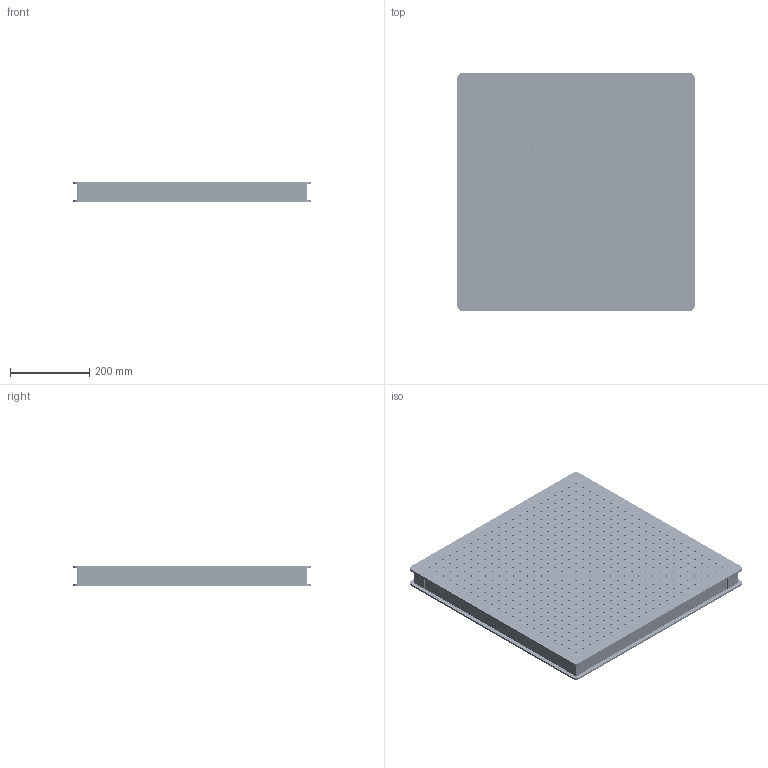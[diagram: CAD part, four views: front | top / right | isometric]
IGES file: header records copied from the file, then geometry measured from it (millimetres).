
Start section: SolidWorks IGES file using analytic representation for surfaces
Global section: file name: 7HC:\Users\Administrator\Desktop\平台三维图纸\上交系列图\OTBB系列\OTBB66-50 台面\OTBB66-50 台面.IGS; native system: SolidWorks 2016; preprocessor: SolidWorks 2016; author: Administrator; date: 190509.162057; units: millimetre
Bounding box: 600 x 600 x 50 mm (x, y, z)
Surface area: 1597225.9 mm2 (no closed solid volume)
Topology: 0 solids, 0 shells, 1040 faces, 19976 edges, 19976 vertices
Faces by surface type: revolution 980, bspline 60
